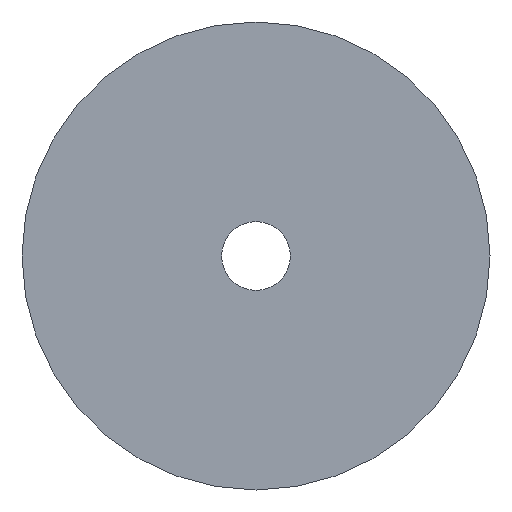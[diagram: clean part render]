
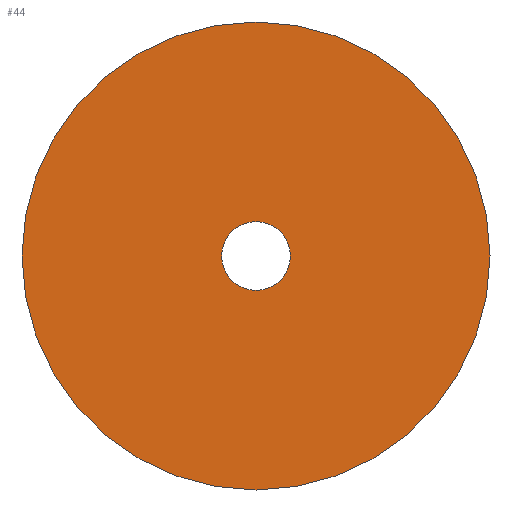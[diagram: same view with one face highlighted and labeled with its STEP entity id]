
A CAD part, front view. The second image highlights one B-rep face of the part: STEP entity #44.
In plain terms, the highlighted planar face has unit normal (0, -1, 0).
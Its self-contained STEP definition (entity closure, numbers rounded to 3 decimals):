
#1 = EDGE_CURVE ( 'NONE', #130, #13, #64, .T. ) ;
#9 = ORIENTED_EDGE ( 'NONE', *, *, #1, .F. ) ;
#11 = VERTEX_POINT ( 'NONE', #142 ) ;
#13 = VERTEX_POINT ( 'NONE', #148 ) ;
#17 = EDGE_CURVE ( 'NONE', #239, #11, #155, .T. ) ;
#30 = EDGE_LOOP ( 'NONE', ( #222, #112 ) ) ;
#41 = EDGE_LOOP ( 'NONE', ( #168, #9 ) ) ;
#44 = ADVANCED_FACE ( 'NONE', ( #97, #98 ), #99, .T. ) ;
#64 = CIRCLE ( 'NONE', #65, 17. ) ;
#65 = AXIS2_PLACEMENT_3D ( 'NONE', #66, #67, #68 ) ;
#66 = CARTESIAN_POINT ( 'NONE',  ( 0., 0., 0. ) ) ;
#67 = DIRECTION ( 'NONE',  ( 0., 1., 0. ) ) ;
#68 = DIRECTION ( 'NONE',  ( 0., 0., 1. ) ) ;
#97 = FACE_BOUND ( 'NONE', #30, .T. ) ;
#98 = FACE_OUTER_BOUND ( 'NONE', #41, .T. ) ;
#99 = PLANE ( 'NONE',  #100 ) ;
#100 = AXIS2_PLACEMENT_3D ( 'NONE', #101, #102, #103 ) ;
#101 = CARTESIAN_POINT ( 'NONE',  ( -17., 0., 0. ) ) ;
#102 = DIRECTION ( 'NONE',  ( 0., -1., 0. ) ) ;
#103 = DIRECTION ( 'NONE',  ( 0., 0., -1. ) ) ;
#112 = ORIENTED_EDGE ( 'NONE', *, *, #17, .T. ) ;
#130 = VERTEX_POINT ( 'NONE', #169 ) ;
#142 = CARTESIAN_POINT ( 'NONE',  ( 0., 0., 2.5 ) ) ;
#148 = CARTESIAN_POINT ( 'NONE',  ( 0., 0., -17. ) ) ;
#155 = CIRCLE ( 'NONE', #156, 2.5 ) ;
#156 = AXIS2_PLACEMENT_3D ( 'NONE', #157, #158, #159 ) ;
#157 = CARTESIAN_POINT ( 'NONE',  ( 0., 0., 0. ) ) ;
#158 = DIRECTION ( 'NONE',  ( 0., 1., 0. ) ) ;
#159 = DIRECTION ( 'NONE',  ( 0., 0., 1. ) ) ;
#167 = EDGE_CURVE ( 'NONE', #13, #130, #192, .T. ) ;
#168 = ORIENTED_EDGE ( 'NONE', *, *, #167, .F. ) ;
#169 = CARTESIAN_POINT ( 'NONE',  ( 0., 0., 17. ) ) ;
#192 = CIRCLE ( 'NONE', #193, 17. ) ;
#193 = AXIS2_PLACEMENT_3D ( 'NONE', #194, #195, #196 ) ;
#194 = CARTESIAN_POINT ( 'NONE',  ( 0., 0., 0. ) ) ;
#195 = DIRECTION ( 'NONE',  ( 0., 1., 0. ) ) ;
#196 = DIRECTION ( 'NONE',  ( 0., 0., 1. ) ) ;
#222 = ORIENTED_EDGE ( 'NONE', *, *, #371, .T. ) ;
#227 = CARTESIAN_POINT ( 'NONE',  ( 0., 0., -2.5 ) ) ;
#239 = VERTEX_POINT ( 'NONE', #227 ) ;
#266 = CIRCLE ( 'NONE', #267, 2.5 ) ;
#267 = AXIS2_PLACEMENT_3D ( 'NONE', #268, #269, #270 ) ;
#268 = CARTESIAN_POINT ( 'NONE',  ( 0., 0., 0. ) ) ;
#269 = DIRECTION ( 'NONE',  ( 0., 1., 0. ) ) ;
#270 = DIRECTION ( 'NONE',  ( 0., 0., 1. ) ) ;
#371 = EDGE_CURVE ( 'NONE', #11, #239, #266, .T. ) ;
